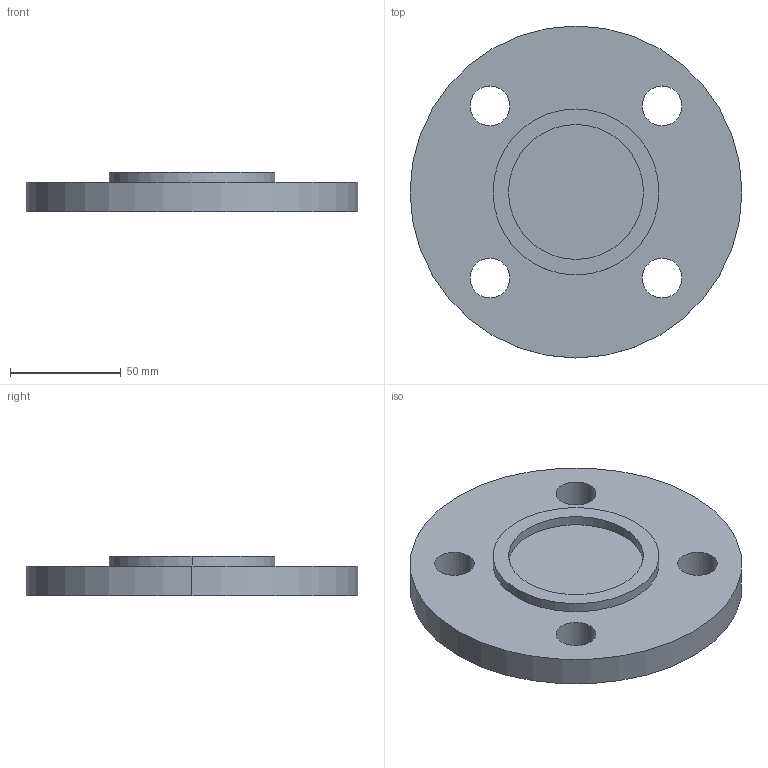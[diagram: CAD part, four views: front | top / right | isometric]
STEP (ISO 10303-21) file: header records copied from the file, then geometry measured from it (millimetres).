
FILE_DESCRIPTION (( 'STEP AP214' ), '1' );
FILE_NAME ('PN40 DN40 Type 05 - Type C Face.STEP', '2018-12-30T02:27:24', ( '' ), ( '' ), 'SwSTEP 2.0', 'SolidWorks 2019', '' );
FILE_SCHEMA (( 'AUTOMOTIVE_DESIGN' ));
Length unit declared in the file: millimetre
Products named in the file (1): PN40 DN40 Type 05 - Type C Face
Bounding box: 150 x 150 x 18 mm (x, y, z)
Volume: 231552.7 mm3; surface area: 44645.2 mm2
Topology: 1 solids, 1 shells, 18 faces, 42 edges, 28 vertices
Faces by surface type: cylinder 14, plane 4
Entity records: 584 total; most frequent: DIRECTION 108, CARTESIAN_POINT 89, ORIENTED_EDGE 84, AXIS2_PLACEMENT_3D 47, EDGE_CURVE 42, CIRCLE 28, VERTEX_POINT 28, EDGE_LOOP 28
